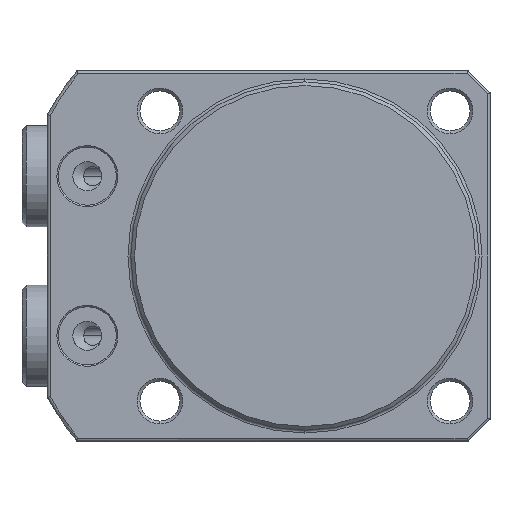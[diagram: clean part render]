
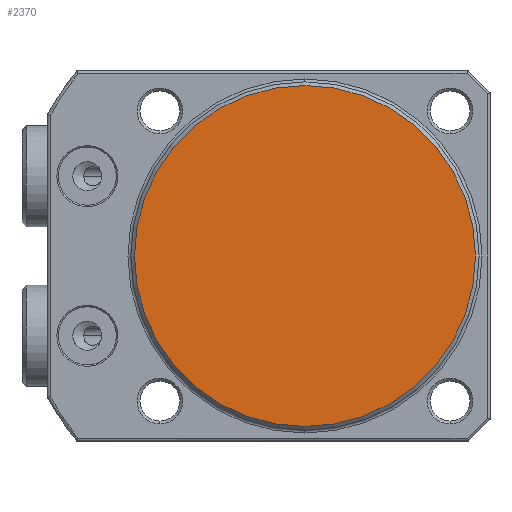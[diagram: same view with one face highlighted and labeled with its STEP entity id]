
A CAD part, front view. The second image highlights one B-rep face of the part: STEP entity #2370.
In plain terms, the highlighted planar face has unit normal (0, -1, 0) as drawn and (-1, 0, 0) by its records, which use the part's own axes.
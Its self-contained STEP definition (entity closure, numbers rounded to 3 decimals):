
#1490=PLANE('',#6481);
#2370=ADVANCED_FACE('',(#2730),#1490,.F.);
#2730=FACE_OUTER_BOUND('',#3036,.T.);
#3036=EDGE_LOOP('',(#3539));
#3539=ORIENTED_EDGE('',*,*,#5382,.T.);
#4886=VERTEX_POINT('',#8853);
#5382=EDGE_CURVE('',#4886,#4886,#6089,.T.);
#6089=CIRCLE('',#6480,23.5);
#6480=AXIS2_PLACEMENT_3D('',#8852,#7293,#7294);
#6481=AXIS2_PLACEMENT_3D('',#8854,#7295,#7296);
#7293=DIRECTION('',(-1.,0.,0.));
#7294=DIRECTION('',(0.,0.,-1.));
#7295=DIRECTION('',(1.,0.,0.));
#7296=DIRECTION('',(0.,0.,1.));
#8852=CARTESIAN_POINT('',(0.,0.,0.));
#8853=CARTESIAN_POINT('',(0.,0.,-23.5));
#8854=CARTESIAN_POINT('',(0.,0.,0.));
